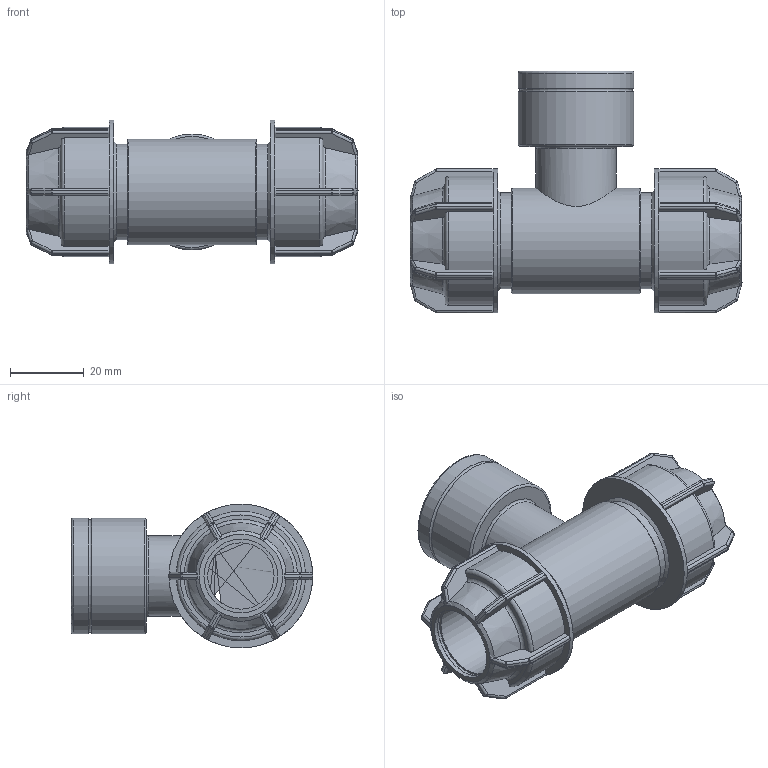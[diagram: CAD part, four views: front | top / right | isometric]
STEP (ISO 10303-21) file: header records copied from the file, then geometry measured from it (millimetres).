
FILE_DESCRIPTION(/* description */ ('PLASSON IRRIFIT TEE FEMALE ADAPTOR 20-3/4"-20'),/* implementation_level */ '2;1');
FILE_NAME(/* name */ 'C:\Dropbox\KIMPROJECTS-Inventor\99-16-3568-Processing\Silver+MF ISRAEL\041407\041407020007.ipt.stp',/* time_stamp */ '2018-04-09T12:59:51+03:00',/* author */ ('KIM'),/* organization */ (''),/* preprocessor_version */ 'ST-DEVELOPER v15.6',/* originating_system */ 'Autodesk Inventor 2015',/* authorisation */ '');
FILE_SCHEMA (('AUTOMOTIVE_DESIGN { 1 0 10303 214 3 1 1 }'));
Length unit declared in the file: millimetre
Products named in the file (1): 041407020007
Bounding box: 90 x 65.5 x 39 mm (x, y, z)
Volume: 48672.1 mm3; surface area: 23977.1 mm2
Topology: 1 solids, 1 shells, 420 faces, 1008 edges, 578 vertices
Faces by surface type: plane 199, cylinder 123, sphere 48, torus 32, cone 18
Full cylindrical faces by diameter (mm): 16.882 x1, 18 x1, 20 x4, 21.705 x1, 24.117 x1, 26 x2, 28.6 x1, 31.352 x2, 39 x2
Entity records: 12164 total; most frequent: CARTESIAN_POINT 3201, DIRECTION 1888, ORIENTED_EDGE 1830, EDGE_CURVE 915, AXIS2_PLACEMENT_3D 764, VERTEX_POINT 543, EDGE_LOOP 458, FACE_OUTER_BOUND 414
